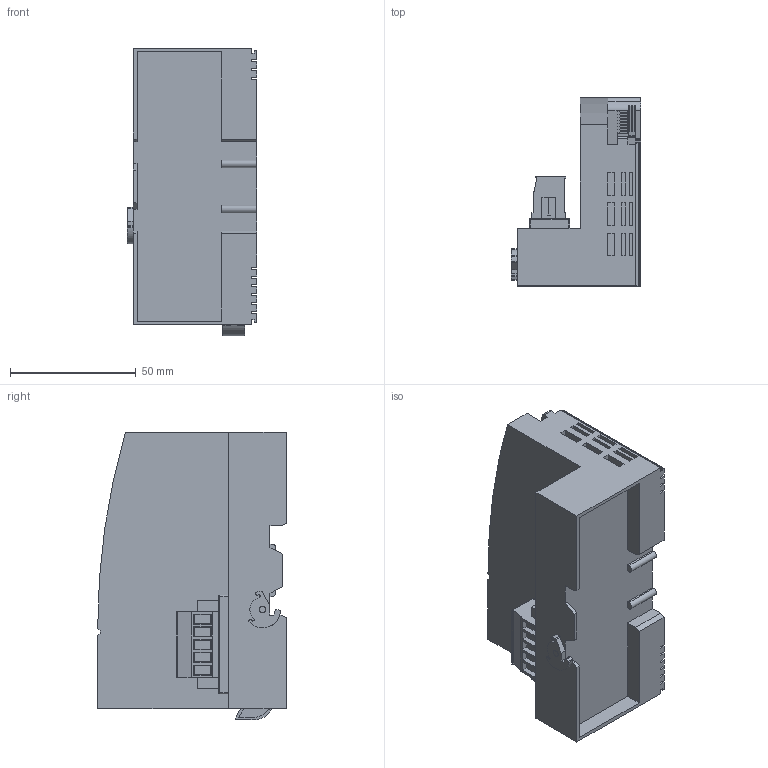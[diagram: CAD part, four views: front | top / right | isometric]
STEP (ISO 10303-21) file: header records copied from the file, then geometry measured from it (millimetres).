
FILE_DESCRIPTION (( 'STEP AP214' ), '1' );
FILE_NAME ('CN8013.STEP', '2023-07-12T07:42:16', ( '' ), ( '' ), 'SwSTEP 2.0', 'SolidWorks 2021', '' );
FILE_SCHEMA (( 'AUTOMOTIVE_DESIGN' ));
Length unit declared in the file: millimetre
Products named in the file (1): CN8013
Bounding box: 51.3 x 75 x 114.4 mm (x, y, z)
Volume: 222349.1 mm3; surface area: 44231.3 mm2
Topology: 1 solids, 1 shells, 822 faces, 2205 edges, 1467 vertices
Faces by surface type: plane 687, cylinder 76, bspline 55, torus 4
Entity records: 28210 total; most frequent: CARTESIAN_POINT 7756, ORIENTED_EDGE 4410, DIRECTION 3814, EDGE_CURVE 2205, VECTOR 1908, LINE 1908, VERTEX_POINT 1467, AXIS2_PLACEMENT_3D 953
